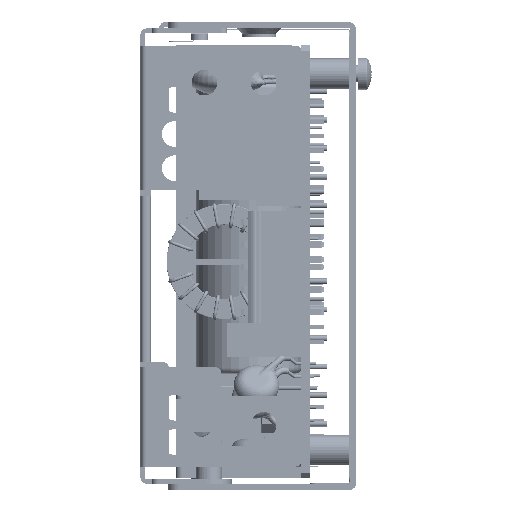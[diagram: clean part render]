
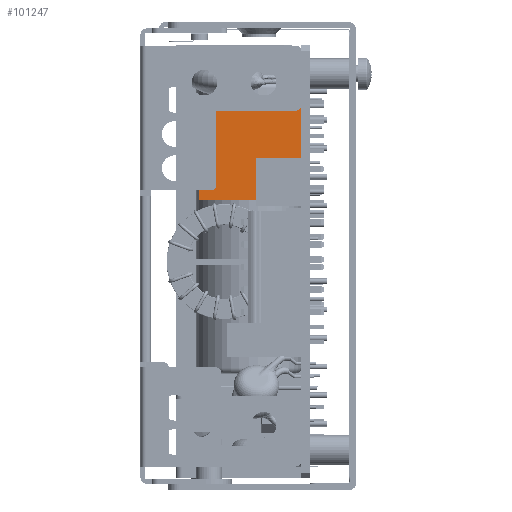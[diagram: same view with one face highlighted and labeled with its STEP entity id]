
A CAD part, left-side view. The second image highlights one B-rep face of the part: STEP entity #101247.
In plain terms, the highlighted planar face has unit normal (-1, 0, 0) as drawn and (0, 0, -1) by its records, which use the part's own axes.
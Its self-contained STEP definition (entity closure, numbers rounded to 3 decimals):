
#4261 = CARTESIAN_POINT ( 'NONE',  ( 9., 9., -5. ) ) ;
#4487 = CARTESIAN_POINT ( 'NONE',  ( -9., 9., -5. ) ) ;
#8489 = EDGE_LOOP ( 'NONE', ( #107109, #50076, #57788, #97264 ) ) ;
#15658 = LINE ( 'NONE', #4261, #31522 ) ;
#16606 = VECTOR ( 'NONE', #27826, 1000. ) ;
#17943 = EDGE_CURVE ( 'NONE', #45312, #80629, #43553, .T. ) ;
#20744 = DIRECTION ( 'NONE',  ( 0., -1., 0. ) ) ;
#22341 = CARTESIAN_POINT ( 'NONE',  ( -9., -9., -5. ) ) ;
#27826 = DIRECTION ( 'NONE',  ( 0., 1., 0. ) ) ;
#29460 = FACE_OUTER_BOUND ( 'NONE', #8489, .T. ) ;
#30936 = VERTEX_POINT ( 'NONE', #63350 ) ;
#31522 = VECTOR ( 'NONE', #103994, 1000. ) ;
#32113 = CARTESIAN_POINT ( 'NONE',  ( -9., -9., -5. ) ) ;
#37554 = VERTEX_POINT ( 'NONE', #99920 ) ;
#39238 = CARTESIAN_POINT ( 'NONE',  ( 9., -9., -5. ) ) ;
#43553 = LINE ( 'NONE', #32113, #104094 ) ;
#44920 = DIRECTION ( 'NONE',  ( 1., 0., 0. ) ) ;
#45312 = VERTEX_POINT ( 'NONE', #4487 ) ;
#46658 = EDGE_CURVE ( 'NONE', #37554, #30936, #50675, .T. ) ;
#50076 = ORIENTED_EDGE ( 'NONE', *, *, #109335, .F. ) ;
#50675 = LINE ( 'NONE', #39238, #16606 ) ;
#54684 = DIRECTION ( 'NONE',  ( 1., 0., 0. ) ) ;
#56267 = CARTESIAN_POINT ( 'NONE',  ( 9., -9., -5. ) ) ;
#57788 = ORIENTED_EDGE ( 'NONE', *, *, #46658, .F. ) ;
#63350 = CARTESIAN_POINT ( 'NONE',  ( 9., 9., -5. ) ) ;
#66121 = DIRECTION ( 'NONE',  ( 0., 0., 1. ) ) ;
#67733 = LINE ( 'NONE', #56267, #79764 ) ;
#77484 = CARTESIAN_POINT ( 'NONE',  ( -9., 9., -5. ) ) ;
#79764 = VECTOR ( 'NONE', #44920, 1000. ) ;
#80629 = VERTEX_POINT ( 'NONE', #22341 ) ;
#84052 = AXIS2_PLACEMENT_3D ( 'NONE', #77484, #66121, #54684 ) ;
#88802 = PLANE ( 'NONE',  #84052 ) ;
#95977 = EDGE_CURVE ( 'NONE', #80629, #37554, #67733, .T. ) ;
#97264 = ORIENTED_EDGE ( 'NONE', *, *, #95977, .F. ) ;
#99920 = CARTESIAN_POINT ( 'NONE',  ( 9., -9., -5. ) ) ;
#101247 = ADVANCED_FACE ( 'NONE', ( #29460 ), #88802, .F. ) ;
#103994 = DIRECTION ( 'NONE',  ( -1., 0., 0. ) ) ;
#104094 = VECTOR ( 'NONE', #20744, 1000. ) ;
#107109 = ORIENTED_EDGE ( 'NONE', *, *, #17943, .F. ) ;
#109335 = EDGE_CURVE ( 'NONE', #30936, #45312, #15658, .T. ) ;
